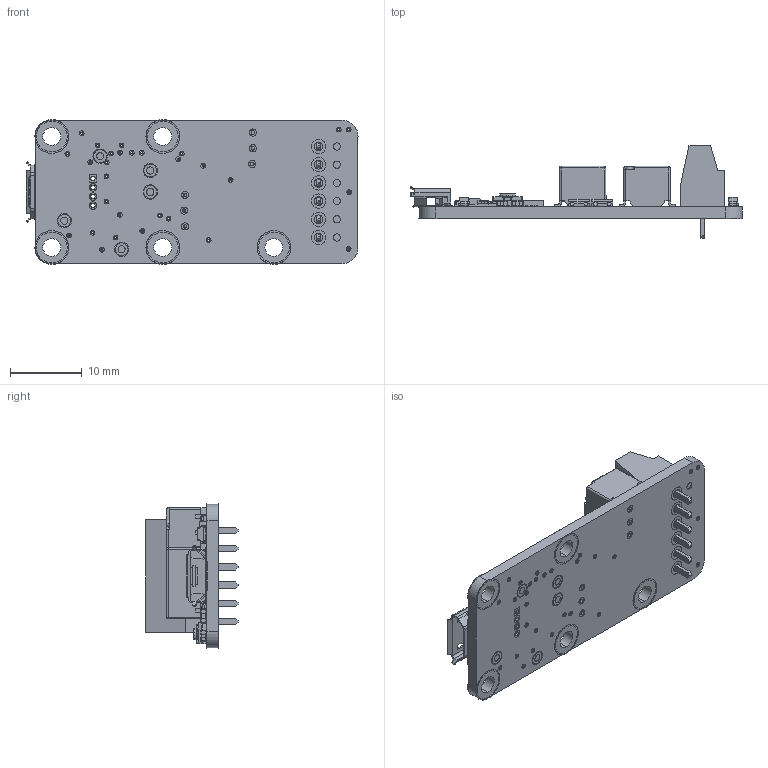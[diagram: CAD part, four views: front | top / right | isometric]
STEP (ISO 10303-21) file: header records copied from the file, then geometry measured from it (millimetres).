
FILE_DESCRIPTION (( 'STEP AP214' ), '1' );
FILE_NAME ('yoctorelay1.STEP', '2012-12-20T14:03:24', ( 'martinm' ), ( '' ), 'SwSTEP 2.0', 'SolidWorks 2008', '' );
FILE_SCHEMA (( 'AUTOMOTIVE_DESIGN' ));
Length unit declared in the file: millimetre
Products named in the file (23): PCB; C2; C6; C16; C18; C19; P2; R1; R2; R3; R4; R5; R12; REG1; SW1; SW3; T2; U1; USB1; YLED; led2outB; sens1; yoctorelay1
Assembly tree (30 placements, depth 2):
  yoctorelay1
    R2
    REG1
    R5
    led2outB  x4
    PCB
    C6  x4
    C16
    R3
    SW3  x2
    sens1
    C18
    SW1
    R12
    U1
    C2
    C19
    R4
    R1
    T2  x2
    P2
    USB1
    YLED
Bounding box: 46.35 x 12.9 x 20.2 mm (x, y, z)
Volume: 2856.9 mm3; surface area: 4249.4 mm2
Topology: 52 solids, 52 shells, 4929 faces, 12741 edges, 8294 vertices
Faces by surface type: plane 3225, cylinder 1239, bspline 388, sphere 70, torus 7
Entity records: 185122 total; most frequent: CARTESIAN_POINT 41110, ORIENTED_EDGE 21646, DIRECTION 20292, EDGE_CURVE 10823, LINE 7860, VECTOR 7860, VERTEX_POINT 7119, AXIS2_PLACEMENT_3D 6216
